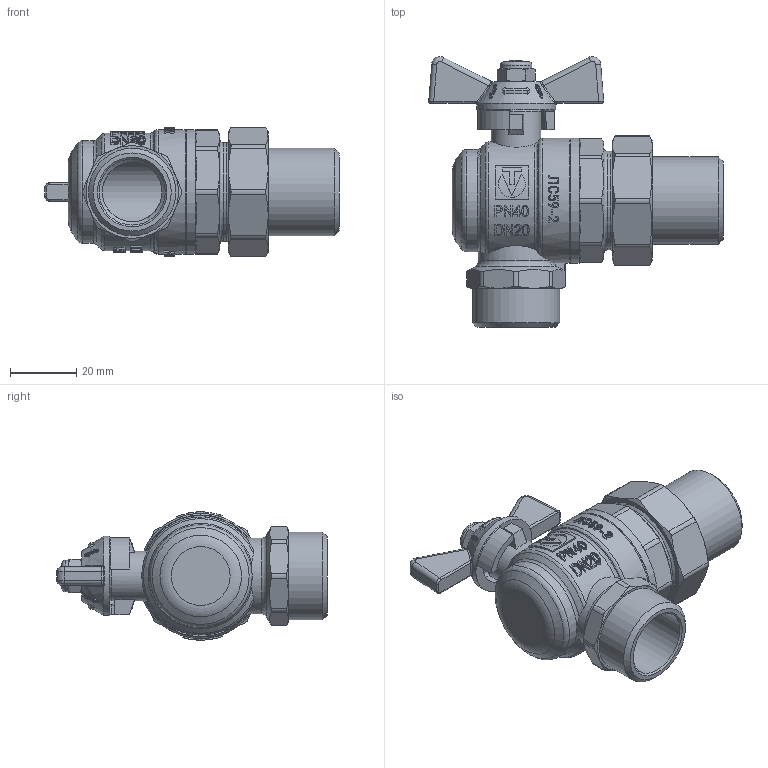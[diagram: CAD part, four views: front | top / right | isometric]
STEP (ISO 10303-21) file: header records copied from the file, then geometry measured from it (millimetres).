
FILE_DESCRIPTION(('STEP AP203'), '1');
FILE_NAME('VT.229S.N.05', '', ('UNSPECIFIED'), ('UNSPECIFIED'), 'C3D Converter', 'C3D Toolkit', '');
FILE_SCHEMA(('CONFIG_CONTROL_DESIGN'));
Length unit declared in the file: millimetre
Products named in the file (1): ВР.491816.025.000 СБ
Bounding box: 89.08 x 81.88 x 39.18 mm (x, y, z)
Volume: 55716.3 mm3; surface area: 24529.2 mm2
Topology: 1 solids, 1 shells, 1916 faces, 5427 edges, 3576 vertices
Faces by surface type: plane 1481, extrusion 179, cylinder 128, cone 76, bspline 30, torus 22
Full cylindrical faces by diameter (mm): 6 x1, 8 x1, 9.5 x1, 10.5 x1, 12 x1, 15 x1, 18 x1, 20 x3, 23.09 x1, 24 x1, 26.441 x2, 27 x1, 29.8 x1, 31 x1, 37.8 x2
Entity records: 71579 total; most frequent: CARTESIAN_POINT 29870, ORIENTED_EDGE 10694, DIRECTION 6474, EDGE_CURVE 5347, VERTEX_POINT 3562, VECTOR 2224, AXIS2_PLACEMENT_3D 2125, LINE 2045
